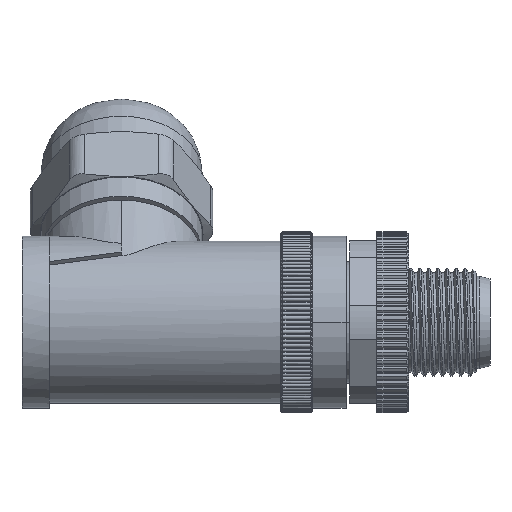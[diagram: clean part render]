
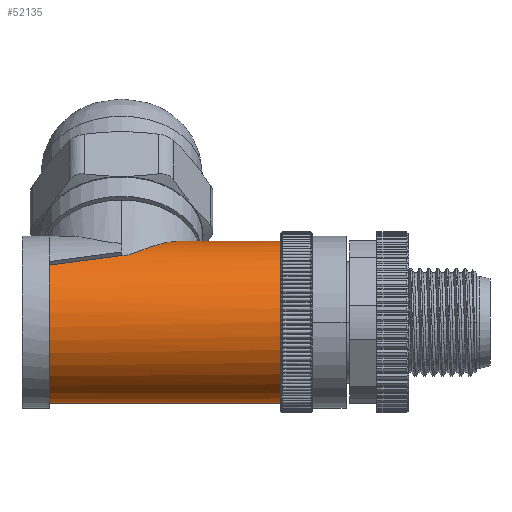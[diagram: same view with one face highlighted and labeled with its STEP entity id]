
A CAD part, left-side view. The second image highlights one B-rep face of the part: STEP entity #52135.
In plain terms, the highlighted cylindrical face has radius 8.95 mm (diameter 17.9 mm), a partial arc.
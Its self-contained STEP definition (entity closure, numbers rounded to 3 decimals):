
#11346=CARTESIAN_POINT('',(0.,16.385,
8.95));
#12261=CARTESIAN_POINT('',(0.,4.9,0.));
#12262=DIRECTION('',(0.,-1.,0.));
#12263=DIRECTION('',(0.,0.,1.));
#12264=AXIS2_PLACEMENT_3D('',#12261,#12262,#12263);
#12266=DIRECTION('',(0.,-1.,0.));
#12267=VECTOR('',#12266,25.6);
#12268=CARTESIAN_POINT('',(0.,30.5,-8.95));
#12269=LINE('',#12268,#12267);
#12270=CARTESIAN_POINT('',(0.,30.5,0.));
#12271=DIRECTION('',(0.,1.,0.));
#12272=DIRECTION('',(0.,0.,-1.));
#12273=AXIS2_PLACEMENT_3D('',#12270,#12271,#12272);
#12275=CARTESIAN_POINT('',(-5.069,22.5,7.376));
#12276=CARTESIAN_POINT('',(-5.524,25.166,
7.063));
#12277=CARTESIAN_POINT('',(-5.944,27.832,
6.713));
#12278=CARTESIAN_POINT('',(-6.329,30.5,6.329));
#12280=CARTESIAN_POINT('',(-5.069,22.5,7.376));
#12281=CARTESIAN_POINT('',(-5.069,22.31,
7.376));
#12282=CARTESIAN_POINT('',(-5.012,21.924,
7.416));
#12283=CARTESIAN_POINT('',(-4.762,21.322,
7.581));
#12284=CARTESIAN_POINT('',(-4.398,20.717,
7.8));
#12285=CARTESIAN_POINT('',(-3.939,20.091,
8.043));
#12286=CARTESIAN_POINT('',(-3.387,19.434,
8.293));
#12287=CARTESIAN_POINT('',(-2.737,18.738,
8.532));
#12288=CARTESIAN_POINT('',(-1.974,17.997,
8.743));
#12289=CARTESIAN_POINT('',(-1.081,17.214,
8.902));
#12290=CARTESIAN_POINT('',(-0.379,16.662,
8.95));
#12291=CARTESIAN_POINT('',(0.,16.385,
8.95));
#12293=DIRECTION('',(0.,-1.,0.));
#12294=VECTOR('',#12293,11.485);
#12295=CARTESIAN_POINT('',(0.,16.385,
8.95));
#12296=LINE('',#12295,#12294);
#38460=VERTEX_POINT('',#11346);
#38467=CARTESIAN_POINT('',(-6.329,30.5,6.329));
#38468=VERTEX_POINT('',#38467);
#38474=CARTESIAN_POINT('',(-5.069,22.5,7.376));
#38476=VERTEX_POINT('',#38474);
#38481=CARTESIAN_POINT('',(0.,30.5,-8.95));
#38482=VERTEX_POINT('',#38481);
#42279=CARTESIAN_POINT('',(0.,4.9,-8.95));
#42280=VERTEX_POINT('',#42279);
#42281=CARTESIAN_POINT('',(0.,4.9,8.95));
#42282=VERTEX_POINT('',#42281);
#52119=CARTESIAN_POINT('',(0.,33.5,0.));
#52120=DIRECTION('',(0.,-1.,0.));
#52121=DIRECTION('',(0.,0.,-1.));
#52122=AXIS2_PLACEMENT_3D('',#52119,#52120,#52121);
#52123=CYLINDRICAL_SURFACE('',#52122,8.95);
#52124=ORIENTED_EDGE('',*,*,#49745,.T.);
#52125=ORIENTED_EDGE('',*,*,#51085,.F.);
#52127=ORIENTED_EDGE('',*,*,#52126,.T.);
#52129=ORIENTED_EDGE('',*,*,#52128,.F.);
#52131=ORIENTED_EDGE('',*,*,#52130,.T.);
#52132=ORIENTED_EDGE('',*,*,#51075,.T.);
#52133=EDGE_LOOP('',(#52124,#52125,#52127,#52129,#52131,#52132));
#52134=FACE_OUTER_BOUND('',#52133,.F.);
#52135=ADVANCED_FACE('',(#52134),#52123,.T.);
#12265=CIRCLE('',#12264,8.95);
#12274=CIRCLE('',#12273,8.95);
#12279=B_SPLINE_CURVE_WITH_KNOTS('',3,(#12275,#12276,#12277,#12278),
.UNSPECIFIED.,.F.,.F.,(4,4),(0.,1.),.UNSPECIFIED.);
#12292=B_SPLINE_CURVE_WITH_KNOTS('',3,(#12280,#12281,#12282,#12283,#12284,
#12285,#12286,#12287,#12288,#12289,#12290,#12291),.UNSPECIFIED.,.F.,.F.,(4,1,1,
1,1,1,1,1,1,4),(0.,0.111,0.222,0.333,
0.444,0.556,0.667,0.778,
0.889,1.),.UNSPECIFIED.);
#49745=EDGE_CURVE('',#42282,#42280,#12265,.T.);
#51075=EDGE_CURVE('',#38460,#42282,#12296,.T.);
#51085=EDGE_CURVE('',#38482,#42280,#12269,.T.);
#52126=EDGE_CURVE('',#38482,#38468,#12274,.T.);
#52128=EDGE_CURVE('',#38476,#38468,#12279,.T.);
#52130=EDGE_CURVE('',#38476,#38460,#12292,.T.);
